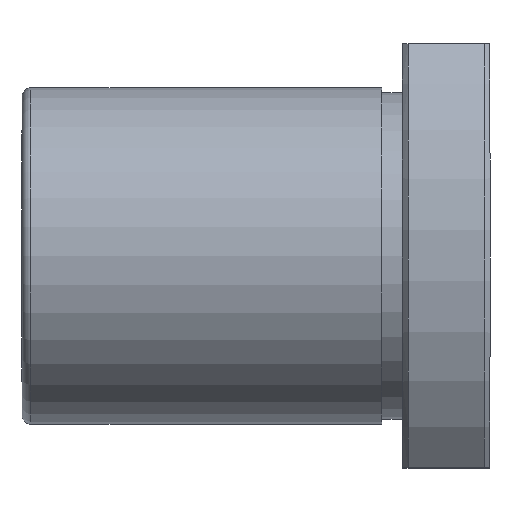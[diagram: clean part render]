
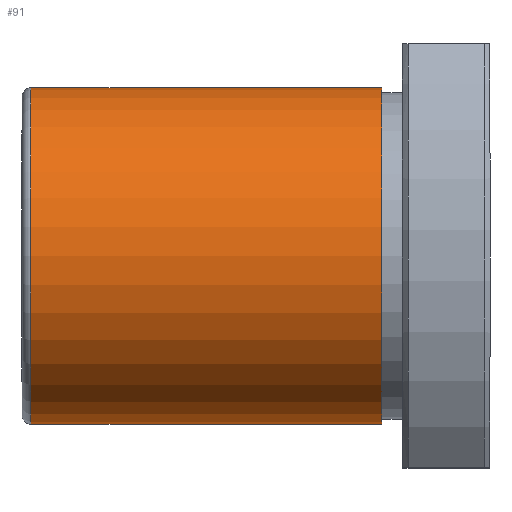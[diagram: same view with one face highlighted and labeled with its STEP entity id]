
A CAD part, top view. The second image highlights one B-rep face of the part: STEP entity #91.
In plain terms, the highlighted cylindrical face has radius 11.5 mm (diameter 23 mm), a full revolution.
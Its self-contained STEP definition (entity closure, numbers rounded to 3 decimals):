
#91=ADVANCED_FACE('',(#142,#143),#144,.T.);
#142=FACE_OUTER_BOUND('',#204,.T.);
#143=FACE_OUTER_BOUND('',#205,.T.);
#144=CYLINDRICAL_SURFACE('',#206,11.5);
#204=EDGE_LOOP('',(#323));
#205=EDGE_LOOP('',(#324));
#206=AXIS2_PLACEMENT_3D('',#325,#326,#327);
#323=ORIENTED_EDGE('',*,*,#399,.F.);
#324=ORIENTED_EDGE('',*,*,#400,.T.);
#325=CARTESIAN_POINT('',(-19.4,0.0,0.));
#326=DIRECTION('',(-1.0,-0.0,0.));
#327=DIRECTION('',(0.0,1.0,0.0));
#399=EDGE_CURVE('',#465,#465,#466,.T.);
#400=EDGE_CURVE('',#467,#467,#468,.T.);
#465=VERTEX_POINT('',#563);
#466=CIRCLE('',#564,11.5);
#467=VERTEX_POINT('',#565);
#468=CIRCLE('',#566,11.5);
#563=CARTESIAN_POINT('',(-31.4,11.5,0.));
#564=AXIS2_PLACEMENT_3D('',#641,#642,#643);
#565=CARTESIAN_POINT('',(-7.4,11.5,0.));
#566=AXIS2_PLACEMENT_3D('',#644,#645,#646);
#641=CARTESIAN_POINT('',(-31.4,0.0,0.));
#642=DIRECTION('',(-1.0,0.0,0.));
#643=DIRECTION('',(0.0,1.0,0.0));
#644=CARTESIAN_POINT('',(-7.4,0.0,0.));
#645=DIRECTION('',(-1.0,0.0,0.));
#646=DIRECTION('',(0.0,1.0,0.0));
